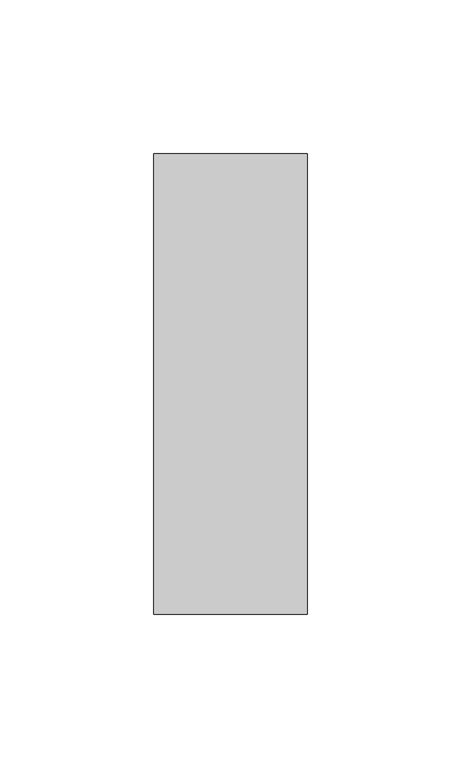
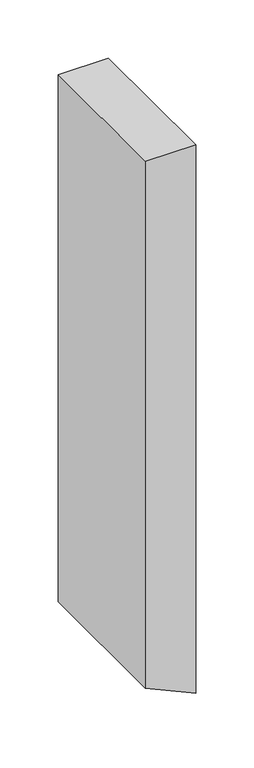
"""IFC4 building model written with IfcOpenShell, lengths in millimetres: member geometry, Прямоугольный импост : 50 x 150 мм."""

from ifc_helpers import new_model, si_unit, frame, origin, place, context, project, spatial, polyline, outline, extrude, source, transform, mapped, element, save


def member_5c92c7af(model_context):
    return source(origin(), model_context, "Body", "SweptSolid", [
        extrude(outline(polyline([(0.0, 25.0), (0.0, -25.0), (-553.2715639, -25.0), (-573.9422309, 20.6314725), (-575.9211365, 25.0), (0.0, 25.0)])), frame((0.0, -75.0, 0.0), z_axis=(0.0, 1.0, 0.0), x_axis=(0.0, 0.0, 1.0)), (0.0, 0.0, 1.0), 150.0),
    ])


if __name__ == "__main__":
    model = new_model("IFC4")
    model_context = context("Model", 3, world=origin())
    ifc_project = project(units=[si_unit("LENGTHUNIT", "METRE", prefix="MILLI")], contexts=[model_context])
    site = spatial("IfcSite", under=ifc_project)
    building = spatial("IfcBuilding", under=site)
    placement = place(None, origin())
    member_shape = member_5c92c7af(model_context)
    element("IfcMember", 1, ObjectType="Прямоугольный импост : 50 x 150 мм", at=placement, inside=building, context=model_context, shape_type="MappedRepresentation", body=[
        mapped(member_shape, transform((0.0, 0.0, 0.0), x_axis=(1.0, 0.0, 0.0), y_axis=(0.0, 1.0, 0.0), z_axis=(0.0, 0.0, 1.0))),
    ])
    save(model, "model.ifc")
